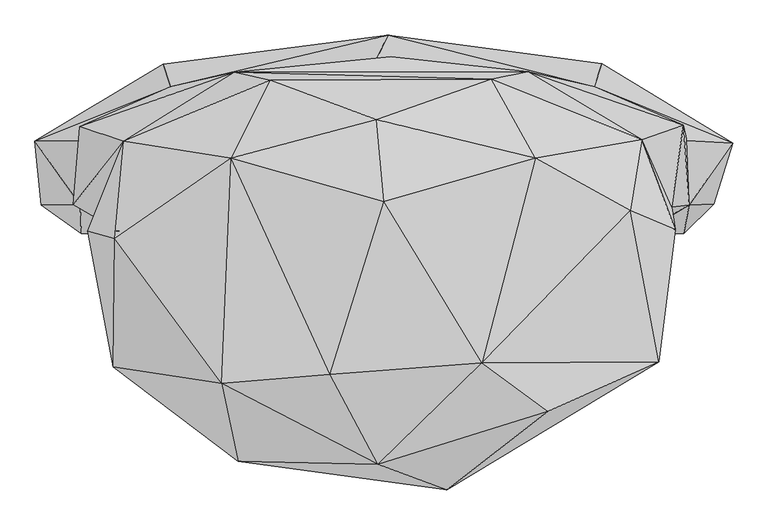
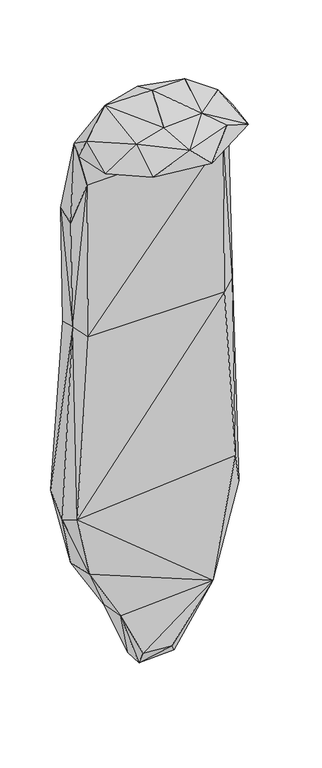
"""IFC4 building model written with IfcOpenShell, lengths in millimetres: geographic element geometry, Enscape AssetDefinition - Creeper Plant 021 Bower Vine : Enscape AssetDefinition - Creeper Plant 021 Bower Vine."""

from ifc_helpers import new_model, si_unit, origin, place, context, project, spatial, faceted_brep, source, transform, mapped, element, save


def geographic_element_4bf2e114(model_context):
    return source(origin(), model_context, "Body", "Brep", [
        faceted_brep([(-240.7220006, -388.3830011, 3.1900001), (-450.0170052, -229.2219996, 3.304), (466.2950039, -221.1129963, 11.7330002), (110.3219986, -435.6180131, 3.2619999), (493.400991, 1.187, 1.733), (279.4530094, -304.2699993, 117.9239973), (169.0019965, -222.4780023, 188.9840066), (417.9689884, 33.3300009, 106.4909995), (-5.566, -393.009007, 104.6580002), (-268.2299912, -256.8260133, 153.1279981), (-85.9749988, -242.057994, 192.1550035), (4.067, 48.2789986, 237.0110005), (258.5600019, 121.4599982, 182.6770008), (437.6440048, 152.511999, -29.2860009), (184.6310049, 253.4739971, -8.9429999), (-7.7789999, 186.1899942, 184.9720031), (-252.2000074, 121.5870008, 183.247), (-447.5370049, -13.7369996, 89.9540037), (-186.9000047, 252.3730099, -12.7769997), (-432.3819876, 149.7640014, -28.012), (-246.8120009, 265.9170032, -395.5950141), (246.2799996, 266.8989897, -390.6370103), (-506.2459707, 173.9050001, -450.4750073), (-353.6570072, 241.256997, -1232.4479818), (-7.7479999, 287.4319851, -1294.7499752), (15.9179997, 291.7259932, -445.7010031), (357.4950099, 241.8089956, -1259.8509789), (507.1949959, 176.7649949, -433.5489869), (10.7810004, 328.2549977, -2331.5439224), (589.9890065, 147.2820044, -2417.4389839), (512.7230287, 150.8920044, -1200.3619671), (370.5630004, 280.1890075, -2354.0771008), (517.1359777, 42.5859988, -1198.7700462), (487.4539971, 38.8909988, -205.0489932), (432.4429929, -5.5479999, -199.3830055), (-493.400991, -1.187, -1.733), (-432.8620136, -5.3929999, -1239.6039963), (437.7680123, -5.3929999, -1239.6039963), (-439.8570061, -1.762, -217.4399942), (-505.8119893, 42.1850011, -1175.2990484), (-517.6420212, 43.5060002, -472.4229872), (-503.8999915, -5.415, -2448.6429691), (507.7700019, -5.3929999, -2369.6498871), (362.7919853, -5.2339998, -3160.6860161), (-417.580992, 6.9860001, -2855.0410271), (-571.582973, 42.3999988, -2454.2839527), (558.7729812, 44.3920009, -2588.5510445), (383.9299977, 45.7589999, -3213.7908936), (302.1079898, 153.4949988, -3401.9908905), (319.0509975, 271.1220086, -3007.1899891), (231.5420061, 244.8109984, -3314.5020008), (82.4500024, 301.7309904, -3063.6949539), (76.7700002, 254.5869946, -3427.9088974), (-57.8889996, 256.200999, -3337.1109962), (-319.8359907, 241.3100004, -2819.2090988), (-366.715014, 279.7630131, -2409.4381332), (-452.7930021, 154.1229934, -2854.1870117), (-581.8650126, 150.383994, -2319.6380138), (-241.5589988, 155.1699936, -3208.0180645), (-91.3299993, 152.1569937, -3584.3410492), (-218.9439982, 9.8980004, -3207.4429989), (-507.8909993, 150.7039964, -1204.8159838), (-82.3199973, -4.9979999, -3498.2919693), (96.8699977, -14.7879999, -3504.9819946), (142.1249956, 39.4320004, -3579.8659325), (-84.0499997, 39.4949988, -3588.8681412), (85.0140005, 151.7779976, -3601.6669273)], [[[0, 1, 2]], [[2, 3, 0]], [[1, 4, 2]], [[3, 2, 5]], [[2, 6, 5]], [[7, 2, 4]], [[2, 7, 6]], [[8, 0, 3]], [[1, 0, 9]], [[0, 8, 9]], [[8, 3, 5]], [[6, 8, 5]], [[6, 10, 8]], [[11, 6, 12]], [[11, 10, 6]], [[12, 6, 7]], [[7, 13, 12]], [[13, 7, 4]], [[13, 14, 12]], [[15, 11, 12]], [[15, 12, 14]], [[16, 11, 15]], [[11, 16, 10]], [[10, 9, 8]], [[16, 9, 10]], [[17, 9, 16]], [[17, 1, 9]], [[18, 19, 16]], [[18, 16, 15]], [[19, 17, 16]], [[18, 15, 14]], [[20, 19, 18]], [[20, 18, 14]], [[21, 20, 14]], [[21, 14, 13]], [[22, 19, 20]], [[23, 22, 20]], [[23, 20, 24]], [[25, 20, 21]], [[20, 25, 24]], [[26, 25, 21]], [[21, 13, 27]], [[27, 26, 21]], [[24, 25, 26]], [[28, 23, 24]], [[28, 24, 26]], [[29, 26, 30]], [[26, 27, 30]], [[31, 26, 29]], [[28, 26, 31]], [[32, 27, 33]], [[27, 13, 33]], [[30, 27, 32]], [[13, 4, 33]], [[34, 33, 4]], [[32, 33, 34]], [[35, 34, 4]], [[4, 1, 35]], [[36, 37, 34]], [[38, 36, 34]], [[38, 34, 35]], [[37, 32, 34]], [[19, 35, 17]], [[38, 35, 19]], [[35, 1, 17]], [[36, 38, 39]], [[38, 40, 39]], [[40, 38, 19]], [[37, 36, 41]], [[41, 36, 39]], [[41, 42, 37]], [[32, 37, 42]], [[41, 43, 42]], [[41, 44, 43]], [[45, 41, 39]], [[41, 45, 44]], [[46, 32, 42]], [[43, 46, 42]], [[29, 30, 32]], [[29, 32, 46]], [[47, 48, 46]], [[46, 43, 47]], [[48, 29, 46]], [[48, 49, 29]], [[49, 31, 29]], [[50, 49, 48]], [[49, 28, 31]], [[51, 28, 49]], [[51, 49, 50]], [[48, 52, 50]], [[52, 51, 50]], [[52, 53, 51]], [[54, 55, 51]], [[53, 54, 51]], [[55, 28, 51]], [[55, 23, 28]], [[54, 56, 55]], [[55, 57, 23]], [[56, 57, 55]], [[58, 54, 53]], [[58, 56, 54]], [[59, 53, 52]], [[53, 59, 58]], [[58, 59, 60]], [[56, 58, 44]], [[58, 60, 44]], [[57, 56, 45]], [[56, 44, 45]], [[57, 39, 61]], [[45, 39, 57]], [[23, 57, 61]], [[23, 61, 22]], [[22, 61, 39]], [[22, 39, 40]], [[22, 40, 19]], [[60, 43, 44]], [[43, 60, 62]], [[62, 63, 43]], [[47, 43, 64]], [[64, 43, 63]], [[65, 63, 62]], [[62, 60, 65]], [[63, 65, 64]], [[64, 48, 47]], [[66, 64, 65]], [[66, 48, 64]], [[59, 66, 65]], [[59, 65, 60]], [[66, 59, 52]], [[52, 48, 66]]]),
    ])


if __name__ == "__main__":
    model = new_model("IFC4")
    model_context = context("Model", 3, world=origin())
    ifc_project = project(units=[si_unit("LENGTHUNIT", "METRE", prefix="MILLI")], contexts=[model_context])
    site = spatial("IfcSite", under=ifc_project)
    building = spatial("IfcBuilding", under=site)
    placement = place(None, origin())
    geographic_element_shape = geographic_element_4bf2e114(model_context)
    element("IfcGeographicElement", 1, ObjectType="Enscape AssetDefinition - Creeper Plant 021 Bower Vine : Enscape AssetDefinition - Creeper Plant 021 Bower Vine", at=placement, inside=building, context=model_context, shape_type="MappedRepresentation", body=[
        mapped(geographic_element_shape, transform((0.0, 0.0, 0.0), x_axis=(1.0, 0.0, 0.0), y_axis=(0.0, 1.0, 0.0), z_axis=(0.0, 0.0, 1.0))),
    ])
    save(model, "model.ifc")
